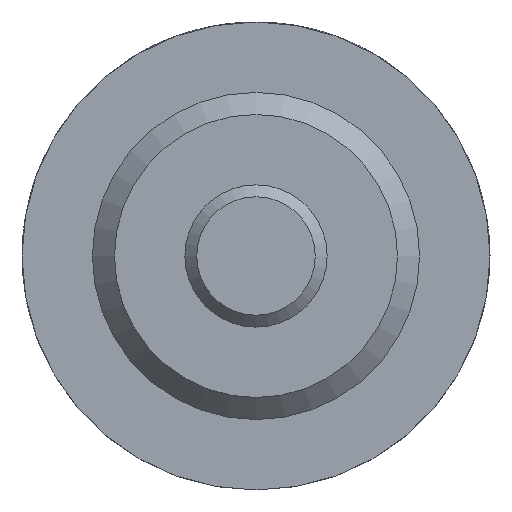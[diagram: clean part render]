
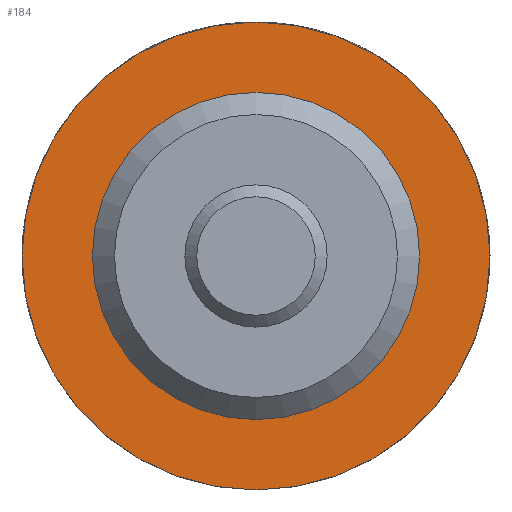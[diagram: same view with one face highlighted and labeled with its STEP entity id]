
A CAD part, left-side view. The second image highlights one B-rep face of the part: STEP entity #184.
In plain terms, the highlighted planar face has unit normal (-1, 0, 0).
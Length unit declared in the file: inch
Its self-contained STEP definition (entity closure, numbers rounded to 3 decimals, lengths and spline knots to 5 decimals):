
#184 = ADVANCED_FACE( '', ( #386, #387 ), #388, .F. );
#386 = FACE_OUTER_BOUND( '', #613, .T. );
#387 = FACE_BOUND( '', #614, .T. );
#388 = PLANE( '', #615 );
#613 = EDGE_LOOP( '', ( #913 ) );
#614 = EDGE_LOOP( '', ( #914 ) );
#615 = AXIS2_PLACEMENT_3D( '', #915, #916, #917 );
#913 = ORIENTED_EDGE( '', *, *, #1144, .F. );
#914 = ORIENTED_EDGE( '', *, *, #1208, .T. );
#915 = CARTESIAN_POINT( '', ( 0.375, 0.2185, 0. ) );
#916 = DIRECTION( '', ( 1., 0., 0. ) );
#917 = DIRECTION( '', ( 0., 0., -1. ) );
#1144 = EDGE_CURVE( '', #1300, #1300, #1301, .T. );
#1208 = EDGE_CURVE( '', #1405, #1405, #1406, .T. );
#1300 = VERTEX_POINT( '', #1576 );
#1301 = CIRCLE( '', #1577, 0.3125 );
#1405 = VERTEX_POINT( '', #1765 );
#1406 = CIRCLE( '', #1766, 0.2185 );
#1576 = CARTESIAN_POINT( '', ( 0.375, 0., -0.3125 ) );
#1577 = AXIS2_PLACEMENT_3D( '', #1966, #1967, #1968 );
#1765 = CARTESIAN_POINT( '', ( 0.375, 0., -0.2185 ) );
#1766 = AXIS2_PLACEMENT_3D( '', #2068, #2069, #2070 );
#1966 = CARTESIAN_POINT( '', ( 0.375, 0., 0. ) );
#1967 = DIRECTION( '', ( 1., 0., 0. ) );
#1968 = DIRECTION( '', ( 0., 0., -1. ) );
#2068 = CARTESIAN_POINT( '', ( 0.375, 0., 0. ) );
#2069 = DIRECTION( '', ( 1., 0., 0. ) );
#2070 = DIRECTION( '', ( 0., 0., -1. ) );
